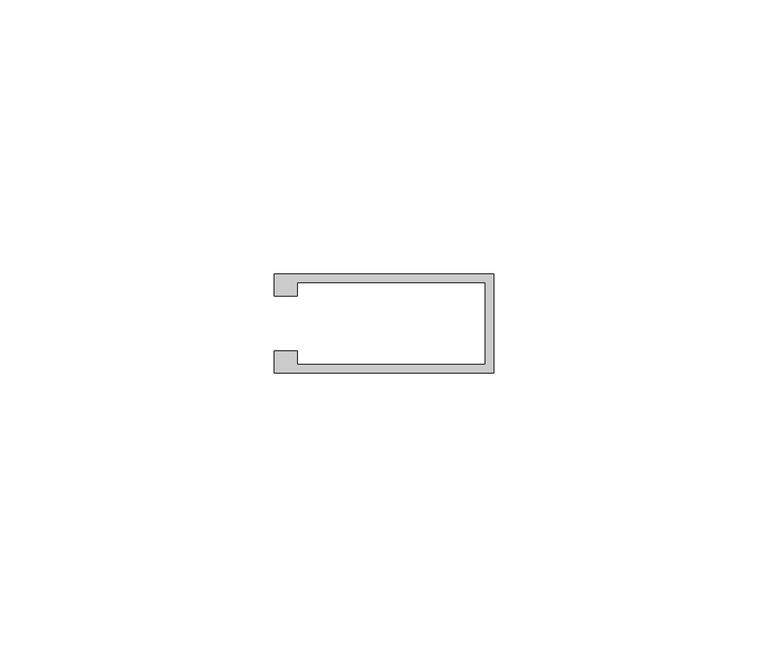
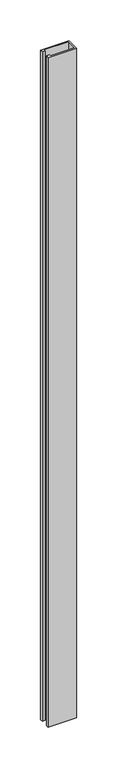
"""IFC4 building model written with IfcOpenShell, lengths in millimetres: member geometry, Прямоугольный импост : 11-AMG-1-Профиль 40Х18 Верх П."""

from ifc_helpers import new_model, si_unit, frame, origin, place, context, project, spatial, polyline, outline, extrude, source, transform, mapped, element, save


def member_5f52b559(model_context):
    return source(origin(), model_context, "Body", "SweptSolid", [
        extrude(outline(polyline([(-40.0, 5.0), (-40.0, 9.0), (0.0, 9.0), (0.0, -9.0), (-40.0, -9.0), (-40.0, -5.0), (-35.8552307, -5.0), (-35.8552307, -7.5), (-1.5, -7.5), (-1.5, 7.5), (-35.8552307, 7.5), (-35.8552307, 5.0), (-40.0, 5.0)])), frame((0.0, 0.0, -1000.0), z_axis=(0.0, 0.0, 1.0), x_axis=(1.0, 0.0, 0.0)), (0.0, 0.0, 1.0), 1000.0),
    ])


if __name__ == "__main__":
    model = new_model("IFC4")
    model_context = context("Model", 3, world=origin())
    ifc_project = project(units=[si_unit("LENGTHUNIT", "METRE", prefix="MILLI")], contexts=[model_context])
    site = spatial("IfcSite", under=ifc_project)
    building = spatial("IfcBuilding", under=site)
    placement = place(None, origin())
    member_shape = member_5f52b559(model_context)
    element("IfcMember", 1, ObjectType="Прямоугольный импост : 11-AMG-1-Профиль 40Х18 Верх П", at=placement, inside=building, context=model_context, shape_type="MappedRepresentation", body=[
        mapped(member_shape, transform((0.0, 0.0, 0.0), x_axis=(1.0, 0.0, 0.0), y_axis=(0.0, 1.0, 0.0), z_axis=(0.0, 0.0, 1.0))),
    ])
    save(model, "model.ifc")
